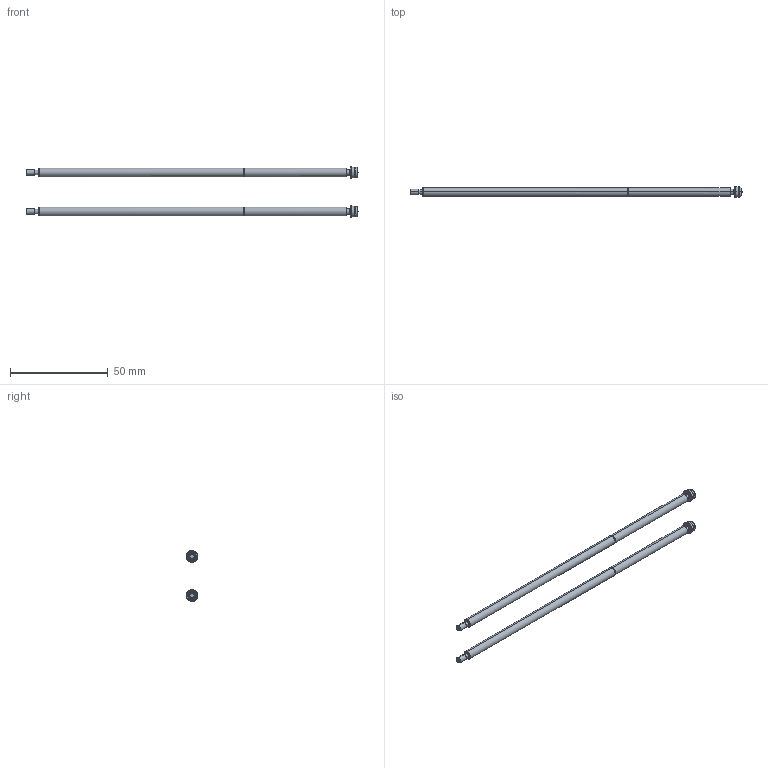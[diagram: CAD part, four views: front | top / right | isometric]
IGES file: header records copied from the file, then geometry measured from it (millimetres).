
Start section: ------------------------------------------------------------------------
Bounding box: 169.9 x 5.99 x 26 mm (x, y, z)
Volume: 5120.9 mm3; surface area: 5599.8 mm2
Topology: 6 solids, 6 shells, 144 faces, 288 edges, 166 vertices
Faces by surface type: bspline 144
